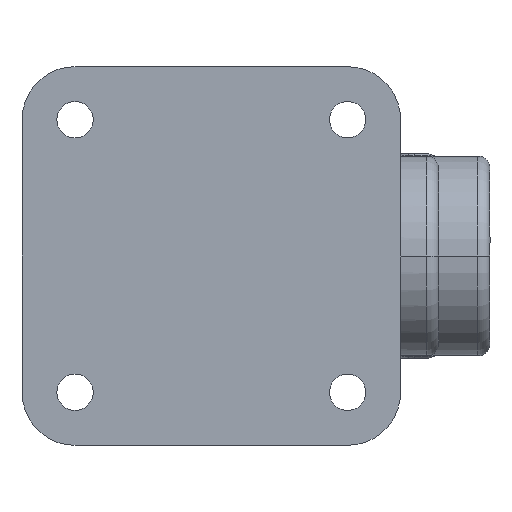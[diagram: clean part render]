
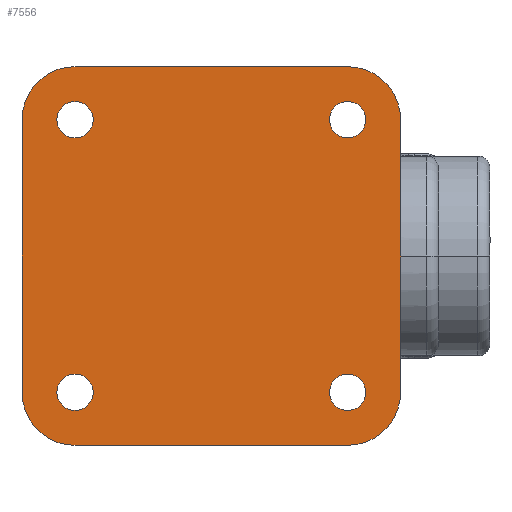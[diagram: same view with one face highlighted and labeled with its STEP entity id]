
A CAD part, front view. The second image highlights one B-rep face of the part: STEP entity #7556.
In plain terms, the highlighted planar face has unit normal (0, -1, 0).
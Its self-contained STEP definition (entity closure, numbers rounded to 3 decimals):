
#283=PLANE('',#8436);
#492=FACE_BOUND('',#2717,.T.);
#493=FACE_BOUND('',#2718,.T.);
#494=FACE_BOUND('',#2719,.T.);
#495=FACE_BOUND('',#2720,.T.);
#977=LINE('',#13598,#1612);
#978=LINE('',#13600,#1613);
#979=LINE('',#13602,#1614);
#980=LINE('',#13604,#1615);
#1612=VECTOR('',#9568,1000.);
#1613=VECTOR('',#9571,1000.);
#1614=VECTOR('',#9574,1000.);
#1615=VECTOR('',#9577,1000.);
#2243=FACE_OUTER_BOUND('',#2716,.T.);
#2716=EDGE_LOOP('',(#5903,#5904,#5905,#5906,#5907,#5908,#5909,#5910));
#2717=EDGE_LOOP('',(#5911));
#2718=EDGE_LOOP('',(#5912));
#2719=EDGE_LOOP('',(#5913));
#2720=EDGE_LOOP('',(#5914));
#3141=CIRCLE('',#8367,6.);
#3143=CIRCLE('',#8370,6.);
#3145=CIRCLE('',#8373,6.);
#3147=CIRCLE('',#8376,6.);
#3157=CIRCLE('',#8392,17.5);
#3159=CIRCLE('',#8395,17.5);
#3161=CIRCLE('',#8398,17.5);
#3163=CIRCLE('',#8401,17.5);
#3490=VERTEX_POINT('',#12679);
#3492=VERTEX_POINT('',#12685);
#3494=VERTEX_POINT('',#12691);
#3496=VERTEX_POINT('',#12697);
#3516=VERTEX_POINT('',#12746);
#3517=VERTEX_POINT('',#12747);
#3518=VERTEX_POINT('',#12753);
#3519=VERTEX_POINT('',#12754);
#3520=VERTEX_POINT('',#12760);
#3521=VERTEX_POINT('',#12761);
#3522=VERTEX_POINT('',#12767);
#3523=VERTEX_POINT('',#12768);
#4310=EDGE_CURVE('',#3490,#3490,#3141,.T.);
#4313=EDGE_CURVE('',#3492,#3492,#3143,.T.);
#4316=EDGE_CURVE('',#3494,#3494,#3145,.T.);
#4319=EDGE_CURVE('',#3496,#3496,#3147,.T.);
#4342=EDGE_CURVE('',#3516,#3517,#3157,.T.);
#4346=EDGE_CURVE('',#3518,#3519,#3159,.T.);
#4350=EDGE_CURVE('',#3520,#3521,#3161,.T.);
#4354=EDGE_CURVE('',#3522,#3523,#3163,.T.);
#4501=EDGE_CURVE('',#3523,#3516,#977,.T.);
#4502=EDGE_CURVE('',#3521,#3522,#978,.T.);
#4503=EDGE_CURVE('',#3519,#3520,#979,.T.);
#4504=EDGE_CURVE('',#3517,#3518,#980,.T.);
#5903=ORIENTED_EDGE('',*,*,#4346,.F.);
#5904=ORIENTED_EDGE('',*,*,#4504,.F.);
#5905=ORIENTED_EDGE('',*,*,#4342,.F.);
#5906=ORIENTED_EDGE('',*,*,#4501,.F.);
#5907=ORIENTED_EDGE('',*,*,#4354,.F.);
#5908=ORIENTED_EDGE('',*,*,#4502,.F.);
#5909=ORIENTED_EDGE('',*,*,#4350,.F.);
#5910=ORIENTED_EDGE('',*,*,#4503,.F.);
#5911=ORIENTED_EDGE('',*,*,#4310,.T.);
#5912=ORIENTED_EDGE('',*,*,#4313,.T.);
#5913=ORIENTED_EDGE('',*,*,#4316,.T.);
#5914=ORIENTED_EDGE('',*,*,#4319,.T.);
#7556=ADVANCED_FACE('',(#2243,#492,#493,#494,#495),#283,.F.);
#8367=AXIS2_PLACEMENT_3D('',#12680,#9333,#9334);
#8370=AXIS2_PLACEMENT_3D('',#12686,#9340,#9341);
#8373=AXIS2_PLACEMENT_3D('',#12692,#9347,#9348);
#8376=AXIS2_PLACEMENT_3D('',#12698,#9354,#9355);
#8392=AXIS2_PLACEMENT_3D('',#12748,#9399,#9400);
#8395=AXIS2_PLACEMENT_3D('',#12755,#9407,#9408);
#8398=AXIS2_PLACEMENT_3D('',#12762,#9415,#9416);
#8401=AXIS2_PLACEMENT_3D('',#12769,#9423,#9424);
#8436=AXIS2_PLACEMENT_3D('',#13605,#9578,#9579);
#9333=DIRECTION('center_axis',(0.,1.,0.));
#9334=DIRECTION('ref_axis',(-1.,0.,0.));
#9340=DIRECTION('center_axis',(0.,1.,0.));
#9341=DIRECTION('ref_axis',(-1.,0.,0.));
#9347=DIRECTION('center_axis',(0.,1.,0.));
#9348=DIRECTION('ref_axis',(-1.,0.,0.));
#9354=DIRECTION('center_axis',(0.,1.,0.));
#9355=DIRECTION('ref_axis',(-1.,0.,0.));
#9399=DIRECTION('center_axis',(0.,1.,0.));
#9400=DIRECTION('ref_axis',(-0.707,0.,-0.707));
#9407=DIRECTION('center_axis',(0.,1.,0.));
#9408=DIRECTION('ref_axis',(-0.707,0.,0.707));
#9415=DIRECTION('center_axis',(0.,1.,0.));
#9416=DIRECTION('ref_axis',(0.707,0.,0.707));
#9423=DIRECTION('center_axis',(0.,1.,0.));
#9424=DIRECTION('ref_axis',(0.707,0.,-0.707));
#9568=DIRECTION('',(-1.,0.,0.));
#9571=DIRECTION('',(0.,0.,-1.));
#9574=DIRECTION('',(1.,0.,0.));
#9577=DIRECTION('',(0.,0.,1.));
#9578=DIRECTION('center_axis',(0.,1.,0.));
#9579=DIRECTION('ref_axis',(1.,0.,0.));
#12679=CARTESIAN_POINT('',(51.,0.,45.));
#12680=CARTESIAN_POINT('Origin',(45.,0.,45.));
#12685=CARTESIAN_POINT('',(51.,0.,-45.));
#12686=CARTESIAN_POINT('Origin',(45.,0.,-45.));
#12691=CARTESIAN_POINT('',(-39.,0.,-45.));
#12692=CARTESIAN_POINT('Origin',(-45.,0.,-45.));
#12697=CARTESIAN_POINT('',(-39.,0.,45.));
#12698=CARTESIAN_POINT('Origin',(-45.,0.,45.));
#12746=CARTESIAN_POINT('',(-45.,0.,-62.5));
#12747=CARTESIAN_POINT('',(-62.5,0.,-45.));
#12748=CARTESIAN_POINT('Origin',(-45.,0.,-45.));
#12753=CARTESIAN_POINT('',(-62.5,0.,45.));
#12754=CARTESIAN_POINT('',(-45.,0.,62.5));
#12755=CARTESIAN_POINT('Origin',(-45.,0.,45.));
#12760=CARTESIAN_POINT('',(45.,0.,62.5));
#12761=CARTESIAN_POINT('',(62.5,0.,45.));
#12762=CARTESIAN_POINT('Origin',(45.,0.,45.));
#12767=CARTESIAN_POINT('',(62.5,0.,-45.));
#12768=CARTESIAN_POINT('',(45.,0.,-62.5));
#12769=CARTESIAN_POINT('Origin',(45.,0.,-45.));
#13598=CARTESIAN_POINT('',(62.5,0.,-62.5));
#13600=CARTESIAN_POINT('',(62.5,0.,62.5));
#13602=CARTESIAN_POINT('',(-62.5,0.,62.5));
#13604=CARTESIAN_POINT('',(-62.5,0.,-62.5));
#13605=CARTESIAN_POINT('Origin',(0.,0.,0.));
